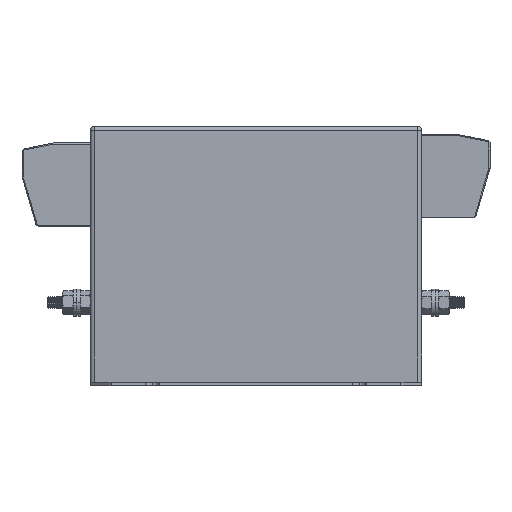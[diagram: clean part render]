
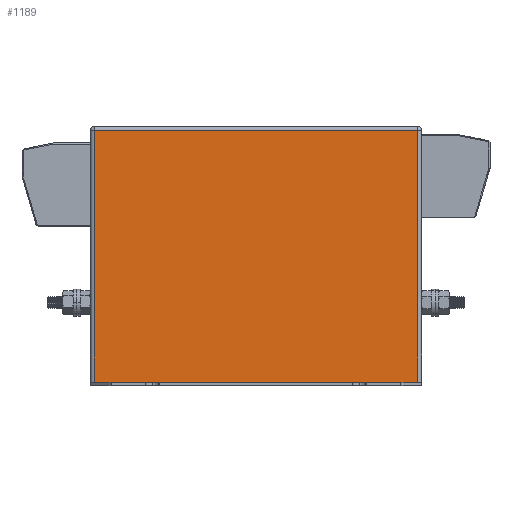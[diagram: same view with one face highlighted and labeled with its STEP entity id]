
A CAD part, top view. The second image highlights one B-rep face of the part: STEP entity #1189.
In plain terms, the highlighted planar face has unit normal (0, 0, 1).
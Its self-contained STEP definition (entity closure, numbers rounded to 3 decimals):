
#31 = DIRECTION ( 'NONE',  ( -1., 0., 0. ) ) ;
#522 = CARTESIAN_POINT ( 'NONE',  ( 2., 1.5, -14. ) ) ;
#539 = VERTEX_POINT ( 'NONE', #8459 ) ;
#554 = PLANE ( 'NONE',  #5253 ) ;
#1138 = VERTEX_POINT ( 'NONE', #522 ) ;
#1189 = ADVANCED_FACE ( 'NONE', ( #2932 ), #554, .F. ) ;
#1459 = EDGE_CURVE ( 'NONE', #539, #8238, #6083, .T. ) ;
#1831 = ORIENTED_EDGE ( 'NONE', *, *, #1459, .T. ) ;
#2597 = VECTOR ( 'NONE', #2886, 1000. ) ;
#2718 = CARTESIAN_POINT ( 'NONE',  ( 0., 125., -14. ) ) ;
#2842 = ORIENTED_EDGE ( 'NONE', *, *, #5993, .T. ) ;
#2886 = DIRECTION ( 'NONE',  ( 0., 1., 0. ) ) ;
#2932 = FACE_OUTER_BOUND ( 'NONE', #8711, .T. ) ;
#3316 = LINE ( 'NONE', #7637, #3890 ) ;
#3436 = CARTESIAN_POINT ( 'NONE',  ( 158., 123., -14. ) ) ;
#3477 = VECTOR ( 'NONE', #5362, 1000. ) ;
#3890 = VECTOR ( 'NONE', #7600, 1000. ) ;
#3931 = LINE ( 'NONE', #8355, #3477 ) ;
#4267 = CARTESIAN_POINT ( 'NONE',  ( 158., 125., -14. ) ) ;
#4408 = VERTEX_POINT ( 'NONE', #6428 ) ;
#4774 = EDGE_CURVE ( 'NONE', #1138, #539, #3931, .T. ) ;
#5166 = EDGE_CURVE ( 'NONE', #8238, #4408, #7548, .T. ) ;
#5253 = AXIS2_PLACEMENT_3D ( 'NONE', #2718, #7805, #8614 ) ;
#5362 = DIRECTION ( 'NONE',  ( 1., 0., 0. ) ) ;
#5772 = CARTESIAN_POINT ( 'NONE',  ( 0., 123., -14. ) ) ;
#5993 = EDGE_CURVE ( 'NONE', #4408, #1138, #3316, .T. ) ;
#6083 = LINE ( 'NONE', #4267, #2597 ) ;
#6303 = ORIENTED_EDGE ( 'NONE', *, *, #5166, .T. ) ;
#6428 = CARTESIAN_POINT ( 'NONE',  ( 2., 123., -14. ) ) ;
#7548 = LINE ( 'NONE', #5772, #8951 ) ;
#7600 = DIRECTION ( 'NONE',  ( 0., -1., 0. ) ) ;
#7637 = CARTESIAN_POINT ( 'NONE',  ( 2., 125., -14. ) ) ;
#7805 = DIRECTION ( 'NONE',  ( 0., 0., -1. ) ) ;
#8238 = VERTEX_POINT ( 'NONE', #3436 ) ;
#8355 = CARTESIAN_POINT ( 'NONE',  ( 0., 1.5, -14. ) ) ;
#8459 = CARTESIAN_POINT ( 'NONE',  ( 158., 1.5, -14. ) ) ;
#8512 = ORIENTED_EDGE ( 'NONE', *, *, #4774, .T. ) ;
#8614 = DIRECTION ( 'NONE',  ( -1., 0., 0. ) ) ;
#8711 = EDGE_LOOP ( 'NONE', ( #6303, #2842, #8512, #1831 ) ) ;
#8951 = VECTOR ( 'NONE', #31, 1000. ) ;
